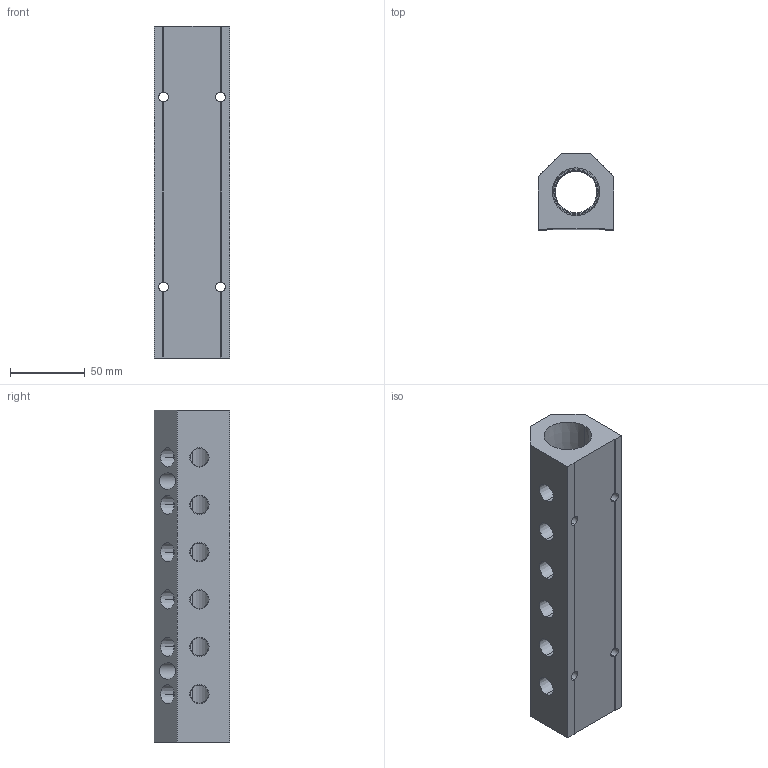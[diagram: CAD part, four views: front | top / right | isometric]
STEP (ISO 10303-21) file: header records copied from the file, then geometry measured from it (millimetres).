
FILE_DESCRIPTION (( 'STEP AP214' ), '1' );
FILE_NAME ('ALM6ABC-N4N16-222R.STEP', '2023-11-02T06:49:39', ( '' ), ( '' ), 'SwSTEP 2.0', 'SolidWorks 2020', '' );
FILE_SCHEMA (( 'AUTOMOTIVE_DESIGN' ));
Length unit declared in the file: millimetre
Products named in the file (1): ALM6ABC-N4N16-222R
Bounding box: 50.8 x 50.8 x 222 mm (x, y, z)
Volume: 337937.5 mm3; surface area: 72077.5 mm2
Topology: 1 solids, 1 shells, 346 faces, 932 edges, 616 vertices
Faces by surface type: plane 218, bspline 62, cone 44, cylinder 22
Entity records: 19439 total; most frequent: CARTESIAN_POINT 7939, ORIENTED_EDGE 1864, DIRECTION 1394, EDGE_CURVE 932, LINE 664, VECTOR 664, VERTEX_POINT 616, EDGE_LOOP 420
